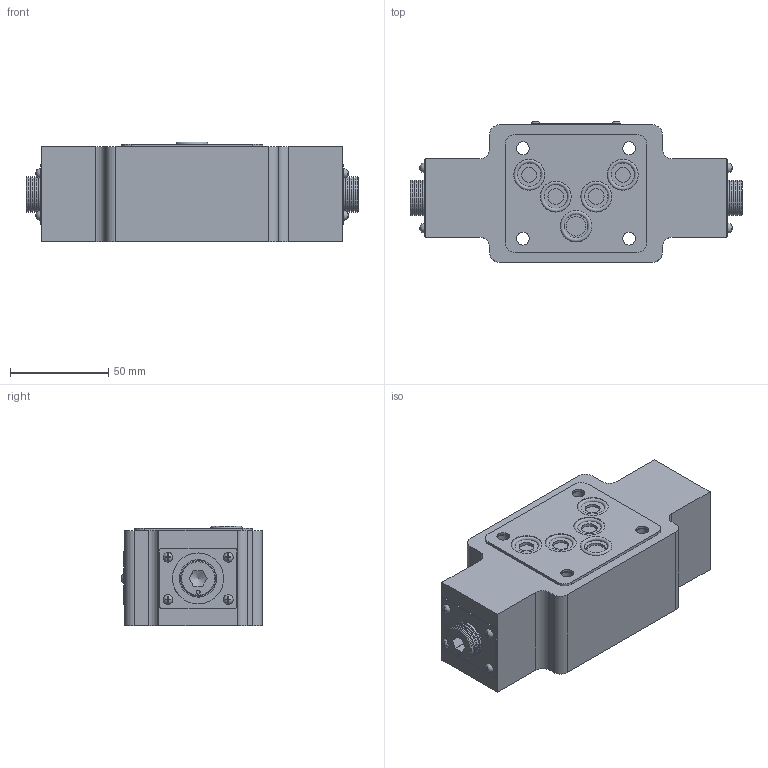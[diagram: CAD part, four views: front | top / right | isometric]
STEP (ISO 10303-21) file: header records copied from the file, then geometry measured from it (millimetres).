
FILE_DESCRIPTION(/* description */ (''),/* implementation_level */ '2;1');
FILE_NAME(/* name */ 'Z2FS10-3XJ-S2叠加式单向节流阀.prt.stp',/* time_stamp */ '2022-03-30T20:05:33+08:00',/* author */ (''),/* organization */ (''),/* preprocessor_version */ 'ST-DEVELOPER v16.7',/* originating_system */ 'SIEMENS PLM Software NX 12.0',/* authorisation */ '');
FILE_SCHEMA (('AUTOMOTIVE_DESIGN { 1 0 10303 214 3 1 1 1 }'));
Products named in the file (1): Z2FS10-3XJ-S2叠加式单向节流阀
Bounding box: 169 x 71.6 x 50.8 mm (x, y, z)
Volume: 64440.8 mm3; surface area: 77981.1 mm2
Topology: 29 solids, 30 shells, 486 faces, 1151 edges, 763 vertices
Faces by surface type: plane 252, cylinder 151, cone 38, bspline 24, torus 13, sphere 8
Full cylindrical faces by diameter (mm): 1.8 x4, 2 x2, 2.5 x2, 3 x8, 4 x8, 6.5 x4, 6.7 x4, 7 x8, 7.5 x4, 8 x4, 10 x2, 15.7 x5, 17 x14, 18 x14, 19 x2, 24.268 x22, 26 x2
Entity records: 43112 total; most frequent: CARTESIAN_POINT 32816, DIRECTION 2054, ORIENTED_EDGE 1776, EDGE_CURVE 888, AXIS2_PLACEMENT_3D 849, EDGE_LOOP 694, VERTEX_POINT 679, ADVANCED_FACE 466
